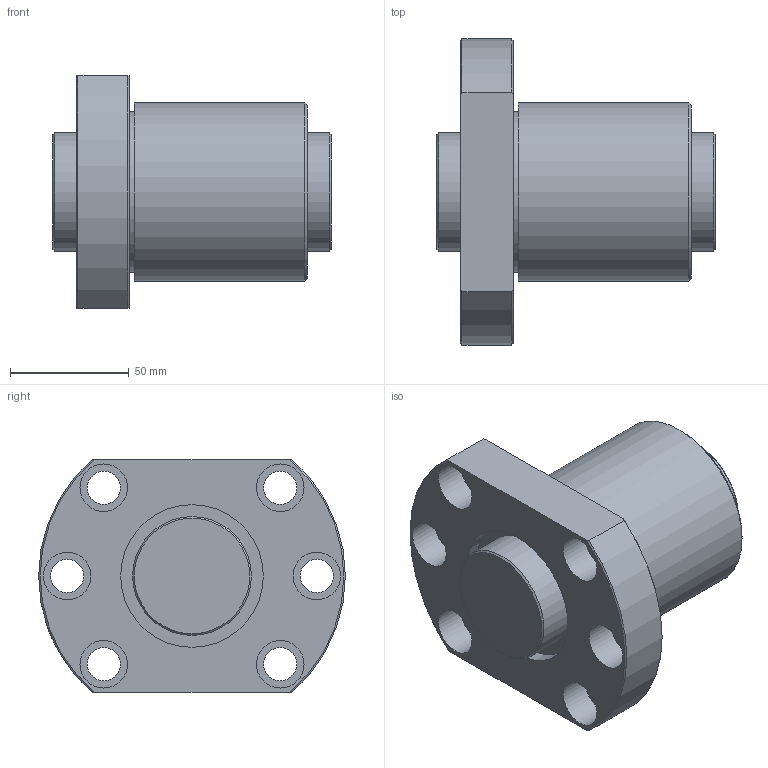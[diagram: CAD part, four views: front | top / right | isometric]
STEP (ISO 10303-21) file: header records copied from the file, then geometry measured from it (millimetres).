
FILE_DESCRIPTION(/* description */ ('STEP AP203'),/* implementation_level */ '2;1');
FILE_NAME(/* name */ 'DK5012-3RRG1+117LC0_000',/* time_stamp */ '2025-01-13T09:20:58+01:00',/* author */ ('License CC BY-ND 4.0'),/* organization */ ('CADENAS'),/* preprocessor_version */ 'ST-DEVELOPER v19.3',/* originating_system */ 'PARTsolutions',/* authorisation */ ' ');
FILE_SCHEMA (('CONFIG_CONTROL_DESIGN'));
Length unit declared in the file: millimetre
Products named in the file (3): DK5012-3RRG1+117LC0_000; DK 5012-3RR011700 Shaft; DK 5012-3RR0Nut
Assembly tree (2 placements, depth 2):
  DK5012-3RRG1+117LC0_000
    DK 5012-3RR011700 Shaft
    DK 5012-3RR0Nut
Bounding box: 117 x 129 x 98 mm (x, y, z)
Volume: 571495.6 mm3; surface area: 90422 mm2
Topology: 2 solids, 2 shells, 46 faces, 94 edges, 62 vertices
Faces by surface type: cylinder 21, plane 16, cone 9
Full cylindrical faces by diameter (mm): 8.566 x1, 14 x6, 20 x6, 50 x2, 60 x2, 67.5 x1, 75 x1
Entity records: 1222 total; most frequent: CARTESIAN_POINT 226, DIRECTION 204, ORIENTED_EDGE 134, AXIS2_PLACEMENT_3D 98, EDGE_LOOP 96, FACE_BOUND 96, EDGE_CURVE 67, VERTEX_POINT 59
